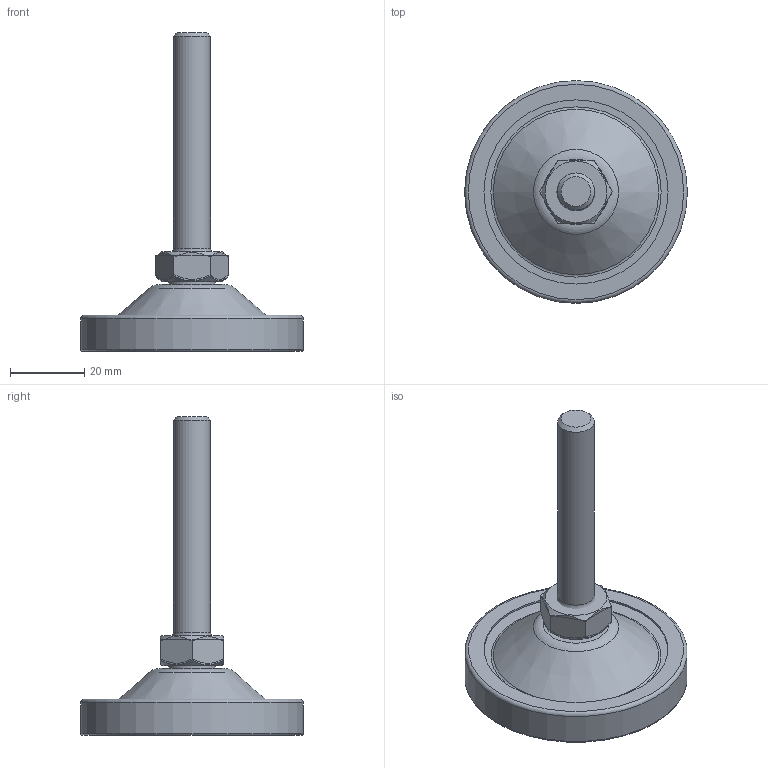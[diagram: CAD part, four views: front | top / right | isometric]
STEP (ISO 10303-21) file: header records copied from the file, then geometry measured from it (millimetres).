
FILE_DESCRIPTION(/* description */ (''),/* implementation_level */ '2;1');
FILE_NAME(/* name */ 'D:\조절자\PFR\PFR-M10-60L.stp',/* time_stamp */ '2016-03-14T15:05:26+09:00',/* author */ ('GS-DT-1-001'),/* organization */ (''),/* preprocessor_version */ 'ST-DEVELOPER v15.6',/* originating_system */ 'Autodesk Inventor LT ',/* authorisation */ '');
FILE_SCHEMA (('AUTOMOTIVE_DESIGN { 1 0 10303 214 3 1 1 }'));
Length unit declared in the file: millimetre
Products named in the file (1): PFR-M10-60L
Bounding box: 60 x 60 x 85.79 mm (x, y, z)
Volume: 30753.2 mm3; surface area: 19632.2 mm2
Topology: 6 solids, 6 shells, 100 faces, 236 edges, 157 vertices
Faces by surface type: plane 45, torus 20, cylinder 20, cone 15
Full cylindrical faces by diameter (mm): 5 x1, 5.153 x1, 6 x1, 6.2 x1, 6.6 x1, 9 x1, 10 x1, 12.5 x1, 49.6 x1, 54.019 x1, 54.2 x1, 60 x1
Entity records: 2399 total; most frequent: CARTESIAN_POINT 439, DIRECTION 418, ORIENTED_EDGE 318, AXIS2_PLACEMENT_3D 184, EDGE_LOOP 164, EDGE_CURVE 159, VERTEX_POINT 127, FACE_OUTER_BOUND 100
